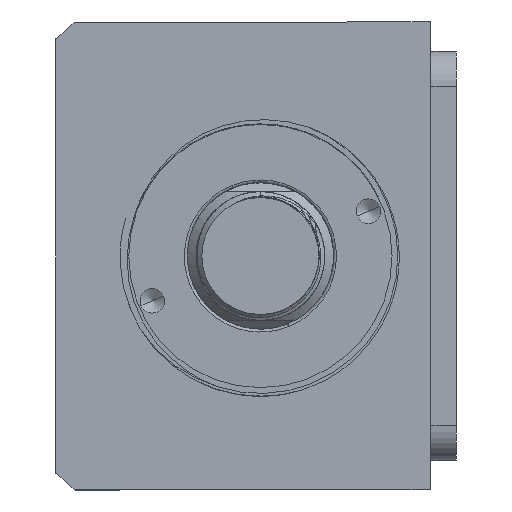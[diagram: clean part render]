
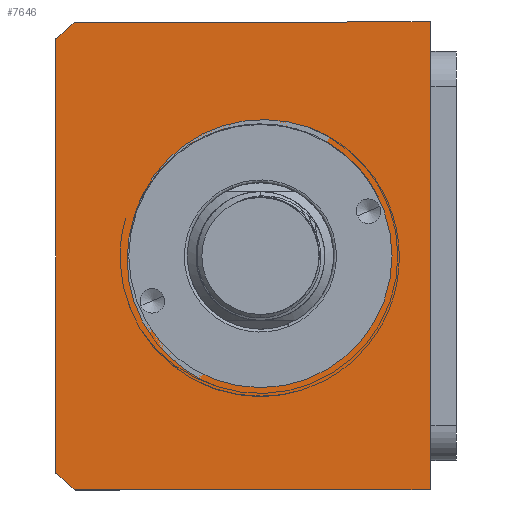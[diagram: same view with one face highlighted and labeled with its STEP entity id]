
A CAD part, front view. The second image highlights one B-rep face of the part: STEP entity #7646.
In plain terms, the highlighted planar face has unit normal (0, -1, 0) as drawn and (0, 0, 1) by its records, which use the part's own axes.
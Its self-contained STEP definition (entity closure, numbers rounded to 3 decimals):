
#111 = ORIENTED_EDGE ( 'NONE', *, *, #1746, .T. ) ;
#122 = VERTEX_POINT ( 'NONE', #6829 ) ;
#271 = VERTEX_POINT ( 'NONE', #12906 ) ;
#294 = CARTESIAN_POINT ( 'NONE',  ( 0., 0., 150. ) ) ;
#361 = DIRECTION ( 'NONE',  ( 0., -1., 0. ) ) ;
#608 = EDGE_CURVE ( 'NONE', #8364, #7198, #4191, .T. ) ;
#678 = DIRECTION ( 'NONE',  ( 1., 0., 0. ) ) ;
#781 = LINE ( 'NONE', #12018, #11759 ) ;
#793 = CARTESIAN_POINT ( 'NONE',  ( -40., -72.145, 150. ) ) ;
#798 = AXIS2_PLACEMENT_3D ( 'NONE', #7579, #11065, #13759 ) ;
#1126 = ORIENTED_EDGE ( 'NONE', *, *, #7149, .T. ) ;
#1184 = CARTESIAN_POINT ( 'NONE',  ( 40., -11.507, 150. ) ) ;
#1383 = EDGE_LOOP ( 'NONE', ( #9073, #8518 ) ) ;
#1389 = VECTOR ( 'NONE', #8299, 1000. ) ;
#1468 = ORIENTED_EDGE ( 'NONE', *, *, #6281, .T. ) ;
#1491 = EDGE_CURVE ( 'NONE', #271, #122, #4728, .T. ) ;
#1645 = CARTESIAN_POINT ( 'NONE',  ( 0., -40.507, 150. ) ) ;
#1746 = EDGE_CURVE ( 'NONE', #5995, #8364, #11530, .T. ) ;
#2463 = DIRECTION ( 'NONE',  ( 0., 0., 1. ) ) ;
#2609 = ORIENTED_EDGE ( 'NONE', *, *, #4799, .T. ) ;
#2680 = DIRECTION ( 'NONE',  ( 1., 0., 0. ) ) ;
#2768 = CIRCLE ( 'NONE', #9106, 22.5 ) ;
#3026 = CARTESIAN_POINT ( 'NONE',  ( -40., -75.507, 150. ) ) ;
#3644 = EDGE_CURVE ( 'NONE', #6976, #11621, #8151, .T. ) ;
#3952 = AXIS2_PLACEMENT_3D ( 'NONE', #294, #2463, #9896 ) ;
#4191 = LINE ( 'NONE', #3026, #1389 ) ;
#4350 = VECTOR ( 'NONE', #10676, 1000. ) ;
#4426 = LINE ( 'NONE', #5432, #7233 ) ;
#4555 = ORIENTED_EDGE ( 'NONE', *, *, #3644, .T. ) ;
#4728 = CIRCLE ( 'NONE', #798, 22.5 ) ;
#4799 = EDGE_CURVE ( 'NONE', #11621, #5995, #781, .T. ) ;
#4916 = AXIS2_PLACEMENT_3D ( 'NONE', #13391, #7025, #678 ) ;
#5432 = CARTESIAN_POINT ( 'NONE',  ( 40., -11.507, 150. ) ) ;
#5873 = EDGE_LOOP ( 'NONE', ( #2609, #111, #13702, #1126, #1468, #4555 ) ) ;
#5995 = VERTEX_POINT ( 'NONE', #793 ) ;
#6270 = CARTESIAN_POINT ( 'NONE',  ( -40., -11.507, 150. ) ) ;
#6281 = EDGE_CURVE ( 'NONE', #8042, #6976, #4426, .T. ) ;
#6449 = DIRECTION ( 'NONE',  ( 0., 1., 0. ) ) ;
#6663 = CARTESIAN_POINT ( 'NONE',  ( 0., -40.507, 150. ) ) ;
#6716 = DIRECTION ( 'NONE',  ( 0., 0., 1. ) ) ;
#6829 = CARTESIAN_POINT ( 'NONE',  ( 22.5, -40.507, 150. ) ) ;
#6976 = VERTEX_POINT ( 'NONE', #1184 ) ;
#7025 = DIRECTION ( 'NONE',  ( 0., 0., 1. ) ) ;
#7149 = EDGE_CURVE ( 'NONE', #7198, #8042, #13531, .T. ) ;
#7198 = VERTEX_POINT ( 'NONE', #8085 ) ;
#7233 = VECTOR ( 'NONE', #6449, 1000. ) ;
#7579 = CARTESIAN_POINT ( 'NONE',  ( 0., -40.507, 150. ) ) ;
#7646 = ADVANCED_FACE ( 'NONE', ( #10547, #13372 ), #8765, .T. ) ;
#8042 = VERTEX_POINT ( 'NONE', #9309 ) ;
#8085 = CARTESIAN_POINT ( 'NONE',  ( 37.094, -75.507, 150. ) ) ;
#8151 = LINE ( 'NONE', #6270, #4350 ) ;
#8299 = DIRECTION ( 'NONE',  ( 1., 0., 0. ) ) ;
#8364 = VERTEX_POINT ( 'NONE', #8846 ) ;
#8518 = ORIENTED_EDGE ( 'NONE', *, *, #1491, .F. ) ;
#8638 = EDGE_CURVE ( 'NONE', #122, #271, #2768, .T. ) ;
#8765 = PLANE ( 'NONE',  #3952 ) ;
#8786 = DIRECTION ( 'NONE',  ( 1., 0., 0. ) ) ;
#8846 = CARTESIAN_POINT ( 'NONE',  ( -37.094, -75.507, 150. ) ) ;
#9045 = DIRECTION ( 'NONE',  ( 0., 0., 1. ) ) ;
#9073 = ORIENTED_EDGE ( 'NONE', *, *, #8638, .F. ) ;
#9106 = AXIS2_PLACEMENT_3D ( 'NONE', #1645, #9045, #2680 ) ;
#9309 = CARTESIAN_POINT ( 'NONE',  ( 40., -72.145, 150. ) ) ;
#9896 = DIRECTION ( 'NONE',  ( 1., 0., 0. ) ) ;
#10547 = FACE_BOUND ( 'NONE', #1383, .T. ) ;
#10676 = DIRECTION ( 'NONE',  ( -1., 0., 0. ) ) ;
#11046 = CARTESIAN_POINT ( 'NONE',  ( -40., -11.507, 150. ) ) ;
#11065 = DIRECTION ( 'NONE',  ( 0., 0., 1. ) ) ;
#11530 = CIRCLE ( 'NONE', #12201, 51. ) ;
#11621 = VERTEX_POINT ( 'NONE', #11046 ) ;
#11759 = VECTOR ( 'NONE', #361, 1000. ) ;
#12018 = CARTESIAN_POINT ( 'NONE',  ( -40., -11.507, 150. ) ) ;
#12201 = AXIS2_PLACEMENT_3D ( 'NONE', #6663, #6716, #8786 ) ;
#12906 = CARTESIAN_POINT ( 'NONE',  ( -22.5, -40.507, 150. ) ) ;
#13372 = FACE_OUTER_BOUND ( 'NONE', #5873, .T. ) ;
#13391 = CARTESIAN_POINT ( 'NONE',  ( 0., -40.507, 150. ) ) ;
#13531 = CIRCLE ( 'NONE', #4916, 51. ) ;
#13702 = ORIENTED_EDGE ( 'NONE', *, *, #608, .T. ) ;
#13759 = DIRECTION ( 'NONE',  ( 1., 0., 0. ) ) ;
